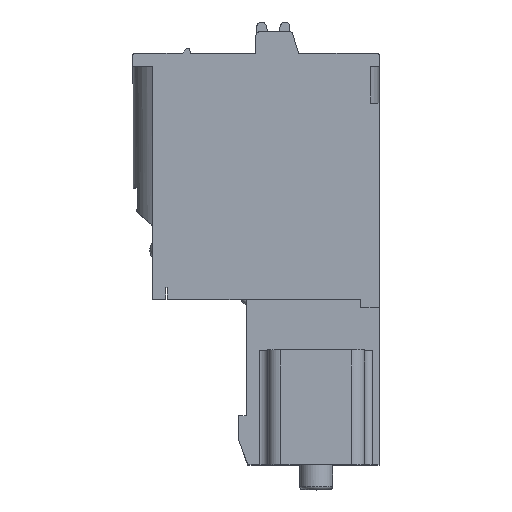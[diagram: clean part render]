
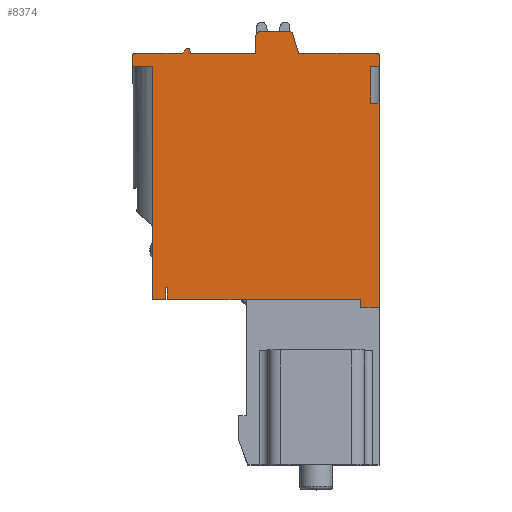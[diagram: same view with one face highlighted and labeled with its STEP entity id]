
A CAD part, top view. The second image highlights one B-rep face of the part: STEP entity #8374.
In plain terms, the highlighted planar face has unit normal (0, 0, 1).
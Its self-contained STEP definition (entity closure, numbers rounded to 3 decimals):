
#343=DIRECTION('',(0.,1.,0.));
#344=VECTOR('',#343,12.45);
#345=CARTESIAN_POINT('',(15.003,0.,12.05));
#346=LINE('',#345,#344);
#636=DIRECTION('',(-1.,0.,0.));
#637=VECTOR('',#636,0.1);
#638=CARTESIAN_POINT('',(2.103,1.2,12.05));
#639=LINE('',#638,#637);
#640=DIRECTION('',(0.,-1.,0.));
#641=VECTOR('',#640,0.7);
#642=CARTESIAN_POINT('',(2.003,1.2,12.05));
#643=LINE('',#642,#641);
#644=DIRECTION('',(-1.,0.,0.));
#645=VECTOR('',#644,0.8);
#646=CARTESIAN_POINT('',(2.003,0.5,12.05));
#647=LINE('',#646,#645);
#648=DIRECTION('',(0.,1.,0.));
#649=VECTOR('',#648,14.2);
#650=CARTESIAN_POINT('',(1.203,0.5,12.05));
#651=LINE('',#650,#649);
#652=DIRECTION('',(0.,1.,0.));
#653=VECTOR('',#652,0.7);
#654=CARTESIAN_POINT('',(0.003,14.7,12.05));
#655=LINE('',#654,#653);
#656=CARTESIAN_POINT('',(0.103,15.4,12.05));
#657=DIRECTION('',(0.,0.,-1.));
#658=DIRECTION('',(-1.,0.,0.));
#659=AXIS2_PLACEMENT_3D('',#656,#657,#658);
#661=DIRECTION('',(1.,0.,0.));
#662=VECTOR('',#661,2.9);
#663=CARTESIAN_POINT('',(0.103,15.5,12.05));
#664=LINE('',#663,#662);
#665=DIRECTION('',(0.707,0.707,0.));
#666=VECTOR('',#665,0.383);
#667=CARTESIAN_POINT('',(3.003,15.5,12.05));
#668=LINE('',#667,#666);
#669=CARTESIAN_POINT('',(3.344,15.7,12.05));
#670=DIRECTION('',(0.,0.,-1.));
#671=DIRECTION('',(-0.707,0.707,0.));
#672=AXIS2_PLACEMENT_3D('',#669,#670,#671);
#674=DIRECTION('',(0.265,-0.964,0.));
#675=VECTOR('',#674,0.235);
#676=CARTESIAN_POINT('',(3.441,15.726,12.05));
#677=LINE('',#676,#675);
#678=CARTESIAN_POINT('',(7.703,16.6,12.05));
#679=DIRECTION('',(0.,0.,-1.));
#680=DIRECTION('',(-1.,0.,0.));
#681=AXIS2_PLACEMENT_3D('',#678,#679,#680);
#683=CARTESIAN_POINT('',(9.555,16.6,12.05));
#684=DIRECTION('',(0.,0.,-1.));
#685=DIRECTION('',(0.,1.,0.));
#686=AXIS2_PLACEMENT_3D('',#683,#684,#685);
#688=DIRECTION('',(0.294,-0.956,0.));
#689=VECTOR('',#688,1.212);
#690=CARTESIAN_POINT('',(9.746,16.659,12.05));
#691=LINE('',#690,#689);
#692=CARTESIAN_POINT('',(14.903,15.4,12.05));
#693=DIRECTION('',(0.,0.,-1.));
#694=DIRECTION('',(0.,1.,0.));
#695=AXIS2_PLACEMENT_3D('',#692,#693,#694);
#697=DIRECTION('',(-1.,0.,0.));
#698=VECTOR('',#697,1.1);
#699=CARTESIAN_POINT('',(15.003,0.,12.05));
#700=LINE('',#699,#698);
#701=DIRECTION('',(-1.,0.,0.));
#702=VECTOR('',#701,7.);
#703=CARTESIAN_POINT('',(13.903,0.5,12.05));
#704=LINE('',#703,#702);
#705=DIRECTION('',(0.,1.,0.));
#706=VECTOR('',#705,0.7);
#707=CARTESIAN_POINT('',(2.103,0.5,12.05));
#708=LINE('',#707,#706);
#709=DIRECTION('',(1.,0.,0.));
#710=VECTOR('',#709,1.2);
#711=CARTESIAN_POINT('',(0.003,14.7,12.05));
#712=LINE('',#711,#710);
#989=DIRECTION('',(-1.,0.,0.));
#990=VECTOR('',#989,4.);
#991=CARTESIAN_POINT('',(7.503,15.5,12.05));
#992=LINE('',#991,#990);
#1861=DIRECTION('',(-1.,0.,0.));
#1862=VECTOR('',#1861,4.8);
#1863=CARTESIAN_POINT('',(14.903,15.5,12.05));
#1864=LINE('',#1863,#1862);
#2147=DIRECTION('',(-1.,0.,0.));
#2148=VECTOR('',#2147,1.852);
#2149=CARTESIAN_POINT('',(9.555,16.8,12.05));
#2150=LINE('',#2149,#2148);
#2163=DIRECTION('',(0.,-1.,0.));
#2164=VECTOR('',#2163,1.1);
#2165=CARTESIAN_POINT('',(7.503,16.6,12.05));
#2166=LINE('',#2165,#2164);
#2199=DIRECTION('',(0.,1.,0.));
#2200=VECTOR('',#2199,0.7);
#2201=CARTESIAN_POINT('',(15.003,14.7,12.05));
#2202=LINE('',#2201,#2200);
#2713=DIRECTION('',(-1.,0.,0.));
#2714=VECTOR('',#2713,0.5);
#2715=CARTESIAN_POINT('',(15.003,12.45,12.05));
#2716=LINE('',#2715,#2714);
#2722=DIRECTION('',(0.,1.,0.));
#2723=VECTOR('',#2722,2.25);
#2724=CARTESIAN_POINT('',(14.503,12.45,12.05));
#2725=LINE('',#2724,#2723);
#2739=DIRECTION('',(1.,0.,0.));
#2740=VECTOR('',#2739,0.5);
#2741=CARTESIAN_POINT('',(14.503,14.7,12.05));
#2742=LINE('',#2741,#2740);
#3553=DIRECTION('',(0.,-1.,0.));
#3554=VECTOR('',#3553,0.5);
#3555=CARTESIAN_POINT('',(13.903,0.5,12.05));
#3556=LINE('',#3555,#3554);
#4914=DIRECTION('',(1.,0.,0.));
#4915=VECTOR('',#4914,4.8);
#4916=CARTESIAN_POINT('',(2.103,0.5,12.05));
#4917=LINE('',#4916,#4915);
#5846=CARTESIAN_POINT('',(3.503,15.5,12.05));
#5848=VERTEX_POINT('',#5846);
#5860=CARTESIAN_POINT('',(7.503,15.5,12.05));
#5861=VERTEX_POINT('',#5860);
#5863=CARTESIAN_POINT('',(3.441,15.726,12.05));
#5865=VERTEX_POINT('',#5863);
#5866=CARTESIAN_POINT('',(3.274,15.771,12.05));
#5868=VERTEX_POINT('',#5866);
#5882=CARTESIAN_POINT('',(3.003,15.5,12.05));
#5883=VERTEX_POINT('',#5882);
#5899=CARTESIAN_POINT('',(0.103,15.5,12.05));
#5901=VERTEX_POINT('',#5899);
#5930=CARTESIAN_POINT('',(0.003,15.4,12.05));
#5932=VERTEX_POINT('',#5930);
#5940=CARTESIAN_POINT('',(0.003,14.7,12.05));
#5941=VERTEX_POINT('',#5940);
#5964=CARTESIAN_POINT('',(1.203,0.5,12.05));
#5966=VERTEX_POINT('',#5964);
#5996=CARTESIAN_POINT('',(1.203,14.7,12.05));
#5997=VERTEX_POINT('',#5996);
#6046=CARTESIAN_POINT('',(2.003,0.5,12.05));
#6047=VERTEX_POINT('',#6046);
#6103=CARTESIAN_POINT('',(15.003,0.,12.05));
#6105=VERTEX_POINT('',#6103);
#6113=CARTESIAN_POINT('',(2.103,0.5,12.05));
#6115=VERTEX_POINT('',#6113);
#6126=CARTESIAN_POINT('',(6.903,0.5,12.05));
#6127=VERTEX_POINT('',#6126);
#6325=CARTESIAN_POINT('',(15.003,12.45,12.05));
#6326=VERTEX_POINT('',#6325);
#6581=CARTESIAN_POINT('',(7.503,16.6,12.05));
#6582=VERTEX_POINT('',#6581);
#6583=CARTESIAN_POINT('',(7.703,16.8,12.05));
#6584=VERTEX_POINT('',#6583);
#6585=CARTESIAN_POINT('',(9.555,16.8,12.05));
#6586=VERTEX_POINT('',#6585);
#6587=CARTESIAN_POINT('',(9.746,16.659,12.05));
#6588=VERTEX_POINT('',#6587);
#6589=CARTESIAN_POINT('',(10.103,15.5,12.05));
#6590=VERTEX_POINT('',#6589);
#6591=CARTESIAN_POINT('',(14.903,15.5,12.05));
#6592=VERTEX_POINT('',#6591);
#6593=CARTESIAN_POINT('',(15.003,15.4,12.05));
#6594=VERTEX_POINT('',#6593);
#6595=CARTESIAN_POINT('',(15.003,14.7,12.05));
#6596=VERTEX_POINT('',#6595);
#6597=CARTESIAN_POINT('',(14.503,14.7,12.05));
#6598=VERTEX_POINT('',#6597);
#6599=CARTESIAN_POINT('',(14.503,12.45,12.05));
#6600=VERTEX_POINT('',#6599);
#7152=CARTESIAN_POINT('',(2.003,1.2,12.05));
#7154=VERTEX_POINT('',#7152);
#7160=CARTESIAN_POINT('',(13.903,0.5,12.05));
#7161=CARTESIAN_POINT('',(13.903,0.,12.05));
#7162=VERTEX_POINT('',#7160);
#7163=VERTEX_POINT('',#7161);
#7165=CARTESIAN_POINT('',(2.103,1.2,12.05));
#7167=VERTEX_POINT('',#7165);
#8317=CARTESIAN_POINT('',(11.173,0.5,12.05));
#8318=DIRECTION('',(0.,0.,-1.));
#8319=DIRECTION('',(1.,0.,0.));
#8320=AXIS2_PLACEMENT_3D('',#8317,#8318,#8319);
#8321=PLANE('',#8320);
#8322=ORIENTED_EDGE('',*,*,#7934,.T.);
#8323=ORIENTED_EDGE('',*,*,#7975,.T.);
#8324=ORIENTED_EDGE('',*,*,#7996,.T.);
#8325=ORIENTED_EDGE('',*,*,#8090,.T.);
#8327=ORIENTED_EDGE('',*,*,#8326,.F.);
#8328=ORIENTED_EDGE('',*,*,#8308,.T.);
#8329=ORIENTED_EDGE('',*,*,#8294,.T.);
#8330=ORIENTED_EDGE('',*,*,#8261,.T.);
#8332=ORIENTED_EDGE('',*,*,#8331,.T.);
#8334=ORIENTED_EDGE('',*,*,#8333,.T.);
#8336=ORIENTED_EDGE('',*,*,#8335,.T.);
#8338=ORIENTED_EDGE('',*,*,#8337,.F.);
#8340=ORIENTED_EDGE('',*,*,#8339,.F.);
#8342=ORIENTED_EDGE('',*,*,#8341,.T.);
#8344=ORIENTED_EDGE('',*,*,#8343,.F.);
#8346=ORIENTED_EDGE('',*,*,#8345,.T.);
#8348=ORIENTED_EDGE('',*,*,#8347,.T.);
#8350=ORIENTED_EDGE('',*,*,#8349,.F.);
#8352=ORIENTED_EDGE('',*,*,#8351,.T.);
#8354=ORIENTED_EDGE('',*,*,#8353,.F.);
#8356=ORIENTED_EDGE('',*,*,#8355,.F.);
#8358=ORIENTED_EDGE('',*,*,#8357,.F.);
#8360=ORIENTED_EDGE('',*,*,#8359,.F.);
#8361=ORIENTED_EDGE('',*,*,#7819,.F.);
#8363=ORIENTED_EDGE('',*,*,#8362,.T.);
#8365=ORIENTED_EDGE('',*,*,#8364,.F.);
#8367=ORIENTED_EDGE('',*,*,#8366,.T.);
#8369=ORIENTED_EDGE('',*,*,#8368,.F.);
#8371=ORIENTED_EDGE('',*,*,#8370,.T.);
#8372=EDGE_LOOP('',(#8322,#8323,#8324,#8325,#8327,#8328,#8329,#8330,#8332,#8334,
#8336,#8338,#8340,#8342,#8344,#8346,#8348,#8350,#8352,#8354,#8356,#8358,#8360,
#8361,#8363,#8365,#8367,#8369,#8371));
#8373=FACE_OUTER_BOUND('',#8372,.F.);
#8374=ADVANCED_FACE('',(#8373),#8321,.F.);
#660=CIRCLE('',#659,0.1);
#673=CIRCLE('',#672,0.1);
#682=CIRCLE('',#681,0.2);
#687=CIRCLE('',#686,0.2);
#696=CIRCLE('',#695,0.1);
#7819=EDGE_CURVE('',#6105,#6326,#346,.T.);
#7934=EDGE_CURVE('',#7167,#7154,#639,.T.);
#7975=EDGE_CURVE('',#7154,#6047,#643,.T.);
#7996=EDGE_CURVE('',#6047,#5966,#647,.T.);
#8090=EDGE_CURVE('',#5966,#5997,#651,.T.);
#8261=EDGE_CURVE('',#5901,#5883,#664,.T.);
#8294=EDGE_CURVE('',#5932,#5901,#660,.T.);
#8308=EDGE_CURVE('',#5941,#5932,#655,.T.);
#8326=EDGE_CURVE('',#5941,#5997,#712,.T.);
#8331=EDGE_CURVE('',#5883,#5868,#668,.T.);
#8333=EDGE_CURVE('',#5868,#5865,#673,.T.);
#8335=EDGE_CURVE('',#5865,#5848,#677,.T.);
#8337=EDGE_CURVE('',#5861,#5848,#992,.T.);
#8339=EDGE_CURVE('',#6582,#5861,#2166,.T.);
#8341=EDGE_CURVE('',#6582,#6584,#682,.T.);
#8343=EDGE_CURVE('',#6586,#6584,#2150,.T.);
#8345=EDGE_CURVE('',#6586,#6588,#687,.T.);
#8347=EDGE_CURVE('',#6588,#6590,#691,.T.);
#8349=EDGE_CURVE('',#6592,#6590,#1864,.T.);
#8351=EDGE_CURVE('',#6592,#6594,#696,.T.);
#8353=EDGE_CURVE('',#6596,#6594,#2202,.T.);
#8355=EDGE_CURVE('',#6598,#6596,#2742,.T.);
#8357=EDGE_CURVE('',#6600,#6598,#2725,.T.);
#8359=EDGE_CURVE('',#6326,#6600,#2716,.T.);
#8362=EDGE_CURVE('',#6105,#7163,#700,.T.);
#8364=EDGE_CURVE('',#7162,#7163,#3556,.T.);
#8366=EDGE_CURVE('',#7162,#6127,#704,.T.);
#8368=EDGE_CURVE('',#6115,#6127,#4917,.T.);
#8370=EDGE_CURVE('',#6115,#7167,#708,.T.);
